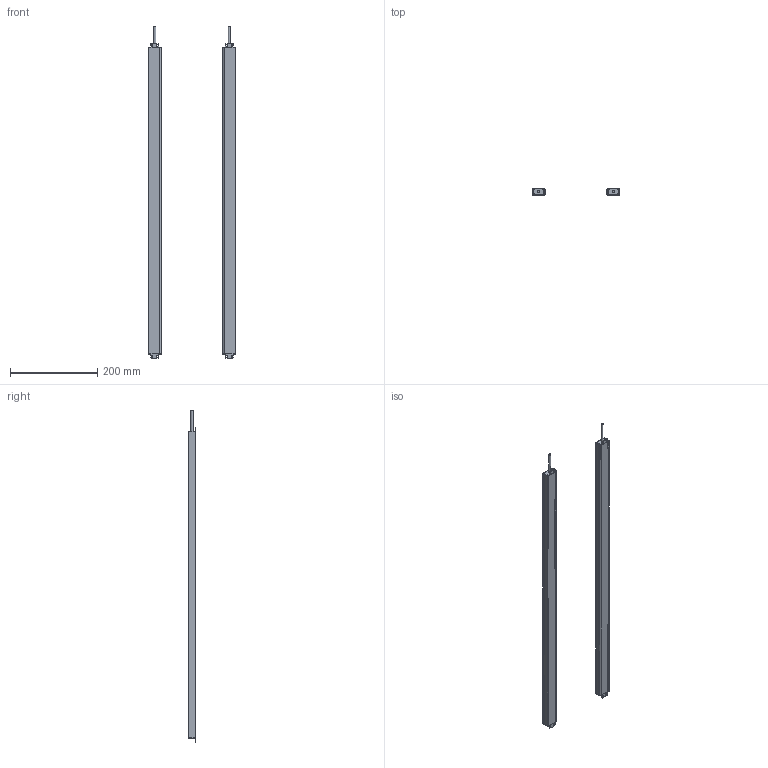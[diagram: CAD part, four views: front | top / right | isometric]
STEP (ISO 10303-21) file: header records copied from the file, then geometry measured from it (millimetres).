
FILE_DESCRIPTION(/* description */ (''),/* implementation_level */ '2;1');
FILE_NAME(/* name */ '7010（16X30w).stp',/* time_stamp */ '2020-07-17T21:08:46+08:00',/* author */ (''),/* organization */ (''),/* preprocessor_version */ 'ST-DEVELOPER v16',/* originating_system */ 'SIEMENS PLM Software NX 10.0',/* authorisation */ '');
FILE_SCHEMA (('AP203_CONFIGURATION_CONTROLLED_3D_DESIGN_OF_MECHANICAL_PARTS_AND_ASSEMBLIES_MIM_LF { 1 0 10303 403 2 1 2}'));
Length unit declared in the file: millimetre
Products named in the file (1): Admi58A03253m8o4
Bounding box: 200 x 16 x 761.5 mm (x, y, z)
Volume: 202251.5 mm3; surface area: 298614.2 mm2
Topology: 10 solids, 10 shells, 296 faces, 830 edges, 554 vertices
Faces by surface type: plane 160, cylinder 136
Full cylindrical faces by diameter (mm): 5 x2
Entity records: 9760 total; most frequent: DIRECTION 1692, CARTESIAN_POINT 1675, ORIENTED_EDGE 1652, EDGE_CURVE 826, AXIS2_PLACEMENT_3D 569, LINE 554, VECTOR 554, VERTEX_POINT 552
